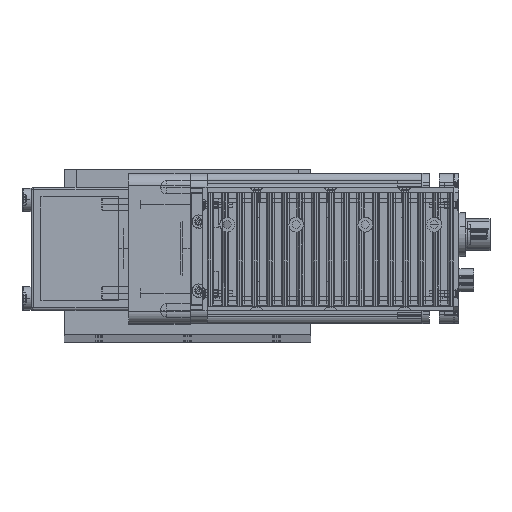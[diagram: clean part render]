
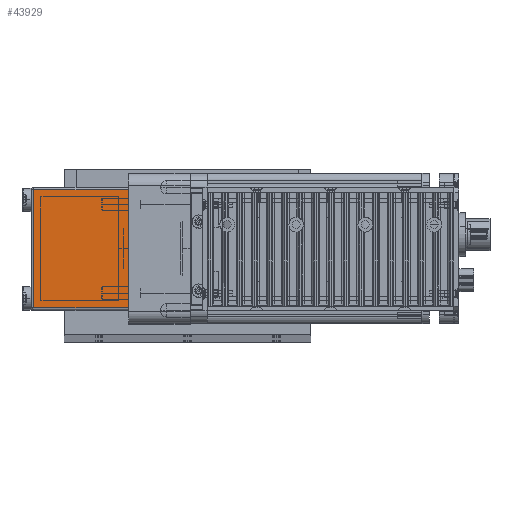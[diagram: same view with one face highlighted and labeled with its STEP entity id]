
A CAD part, top view. The second image highlights one B-rep face of the part: STEP entity #43929.
In plain terms, the highlighted planar face has unit normal (0, 0, 1) as drawn and (1, 0, 0) by its records, which use the part's own axes.
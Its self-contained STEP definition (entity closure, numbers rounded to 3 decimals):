
#19038 = CARTESIAN_POINT ( 'NONE',  ( 62., 24., 0. ) ) ;
#20064 = CARTESIAN_POINT ( 'NONE',  ( 62., 24., 38.5 ) ) ;
#20597 = CARTESIAN_POINT ( 'NONE',  ( 62., -24., 38.5 ) ) ;
#21061 = CARTESIAN_POINT ( 'NONE',  ( 62., 24., 39.5 ) ) ;
#21062 = LINE ( 'NONE', #21061, #21103 ) ;
#21102 = DIRECTION ( 'NONE',  ( 0., 0., -1. ) ) ;
#21103 = VECTOR ( 'NONE', #21102, 1000. ) ;
#21811 = CARTESIAN_POINT ( 'NONE',  ( 62., -24., 0. ) ) ;
#21849 = DIRECTION ( 'NONE',  ( 0., 0., 1. ) ) ;
#21850 = VECTOR ( 'NONE', #21849, 1000. ) ;
#21851 = CARTESIAN_POINT ( 'NONE',  ( 62., -24., 39.5 ) ) ;
#21867 = LINE ( 'NONE', #21851, #21850 ) ;
#24189 = PLANE ( 'NONE',  #24247 ) ;
#24194 = FACE_OUTER_BOUND ( 'NONE', #43680, .T. ) ;
#24198 = CARTESIAN_POINT ( 'NONE',  ( 62., 25., 39.5 ) ) ;
#24200 = DIRECTION ( 'NONE',  ( 0., 1., 0. ) ) ;
#24201 = VECTOR ( 'NONE', #24200, 1000. ) ;
#24202 = CARTESIAN_POINT ( 'NONE',  ( 62., -25., 0. ) ) ;
#24205 = DIRECTION ( 'NONE',  ( 0., 1., 0. ) ) ;
#24206 = VECTOR ( 'NONE', #24205, 1000. ) ;
#24213 = CARTESIAN_POINT ( 'NONE',  ( 62., -25., 38.5 ) ) ;
#24214 = LINE ( 'NONE', #24213, #24206 ) ;
#24221 = LINE ( 'NONE', #24202, #24201 ) ;
#24236 = DIRECTION ( 'NONE',  ( 0., -1., 0. ) ) ;
#24237 = DIRECTION ( 'NONE',  ( -1., 0., 0. ) ) ;
#24247 = AXIS2_PLACEMENT_3D ( 'NONE', #24198, #24237, #24236 ) ;
#41099 = VERTEX_POINT ( 'NONE', #19038 ) ;
#41704 = VERTEX_POINT ( 'NONE', #20064 ) ;
#41953 = VERTEX_POINT ( 'NONE', #20597 ) ;
#42247 = EDGE_CURVE ( 'NONE', #41704, #41099, #21062, .T. ) ;
#42652 = VERTEX_POINT ( 'NONE', #21811 ) ;
#42670 = EDGE_CURVE ( 'NONE', #42652, #41953, #21867, .T. ) ;
#43596 = ORIENTED_EDGE ( 'NONE', *, *, #43915, .T. ) ;
#43680 = EDGE_LOOP ( 'NONE', ( #43902, #43596, #43803, #43853 ) ) ;
#43803 = ORIENTED_EDGE ( 'NONE', *, *, #42247, .F. ) ;
#43853 = ORIENTED_EDGE ( 'NONE', *, *, #43914, .F. ) ;
#43902 = ORIENTED_EDGE ( 'NONE', *, *, #42670, .F. ) ;
#43914 = EDGE_CURVE ( 'NONE', #41953, #41704, #24214, .T. ) ;
#43915 = EDGE_CURVE ( 'NONE', #42652, #41099, #24221, .T. ) ;
#43929 = ADVANCED_FACE ( 'NONE', ( #24194 ), #24189, .F. ) ;
